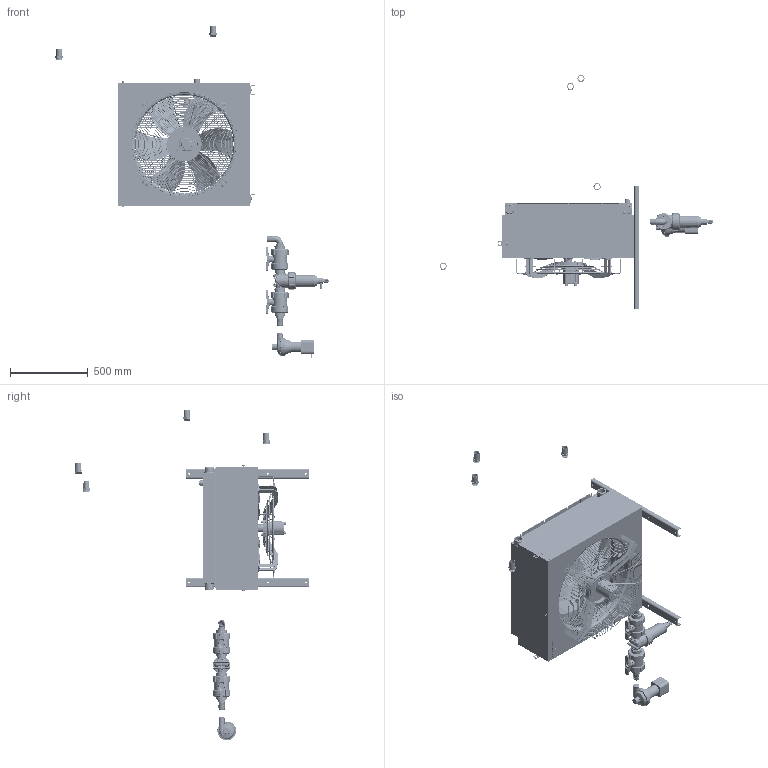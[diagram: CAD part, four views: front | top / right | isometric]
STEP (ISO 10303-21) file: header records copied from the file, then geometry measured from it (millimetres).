
FILE_DESCRIPTION(/* description */ (''),/* implementation_level */ '2;1');
FILE_NAME(/* name */ '1638082.stp',/* time_stamp */ '2025-04-23T13:25:45+02:00',/* author */ ('JJ'),/* organization */ (''),/* preprocessor_version */ 'ST-DEVELOPER v20',/* originating_system */ 'Autodesk Inventor 2025',/* authorisation */ '');
FILE_SCHEMA (('AUTOMOTIVE_DESIGN { 1 0 10303 214 3 1 1 }'));
Products named in the file (10): 1638082; 962000075; 3903356-3D; 944600346; 944600344; 944600345; 944600347; 944600348; 944600349; 925000888
Assembly tree (19 placements, depth 2):
  1638082
    962000075
    3903356-3D
    944600346  x2
    944600344
    944600345
    944600347  x4
    944600348
    944600349  x4
    925000888  x4
Bounding box: 1758.6 x 1505.57 x 2136.46 mm (x, y, z)
Volume: 31026804.8 mm3; surface area: 14592740 mm2
Topology: 210 solids, 216 shells, 10181 faces, 26945 edges, 17430 vertices
Faces by surface type: plane 4002, cylinder 2736, bspline 1619, cone 1025, torus 693, sphere 106
Full cylindrical faces by diameter (mm): 1 x4, 1.28 x2, 2 x3, 2.5 x2, 3 x1, 3.1 x1, 3.5 x2, 4 x6, 4.5 x6, 4.8 x24, 5 x20, 5.5 x1, 6 x20, 6.5 x15, 6.647 x2, 6.8 x34, 7 x1, 8 x46, 8.5 x6, 9 x14, 9.5 x1, 9.7 x1, 10 x14, 10.25 x1, 10.5 x5, 10.8 x1, 11 x4, 11.3 x2, 11.445 x2, 11.5 x5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
Entity records: 447825 total; most frequent: CARTESIAN_POINT 230429, ORIENTED_EDGE 47664, DIRECTION 41037, EDGE_CURVE 23832, VERTEX_POINT 15508, AXIS2_PLACEMENT_3D 15105, LINE 10827, VECTOR 10827
